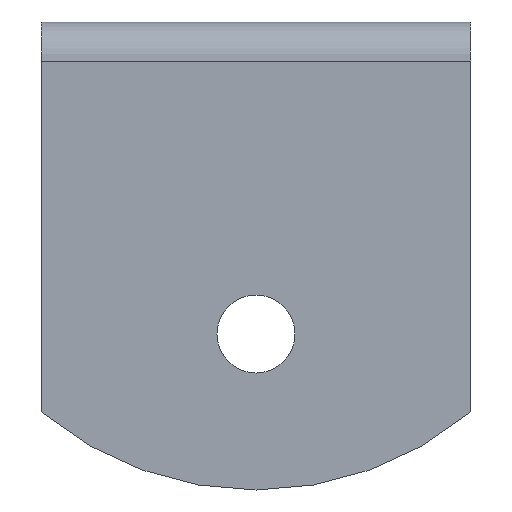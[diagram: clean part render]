
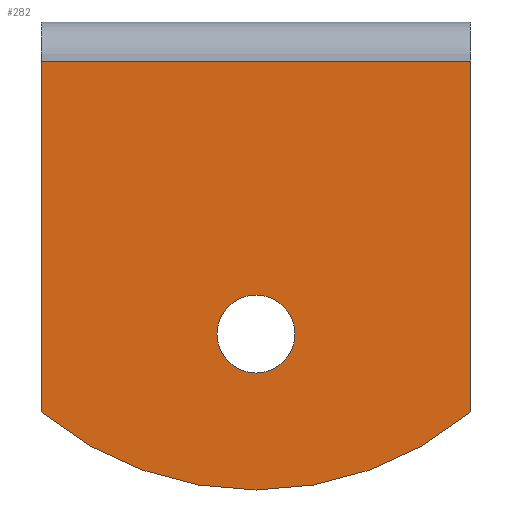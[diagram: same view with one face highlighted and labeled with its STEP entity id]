
A CAD part, left-side view. The second image highlights one B-rep face of the part: STEP entity #282.
In plain terms, the highlighted planar face has unit normal (-1, 0, 0).
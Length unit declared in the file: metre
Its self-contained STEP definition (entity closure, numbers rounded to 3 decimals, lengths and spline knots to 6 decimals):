
#13=PLANE('',#315);
#20=LINE('',#450,#40);
#26=LINE('',#467,#46);
#27=LINE('',#470,#47);
#40=VECTOR('',#357,1.);
#46=VECTOR('',#369,1.);
#47=VECTOR('',#370,1.);
#70=ORIENTED_EDGE('',*,*,#150,.T.);
#71=ORIENTED_EDGE('',*,*,#151,.T.);
#72=ORIENTED_EDGE('',*,*,#142,.F.);
#73=ORIENTED_EDGE('',*,*,#152,.T.);
#74=ORIENTED_EDGE('',*,*,#153,.F.);
#75=ORIENTED_EDGE('',*,*,#154,.T.);
#76=ORIENTED_EDGE('',*,*,#155,.T.);
#142=EDGE_CURVE('',#182,#183,#20,.T.);
#150=EDGE_CURVE('',#190,#191,#26,.T.);
#151=EDGE_CURVE('',#191,#183,#27,.T.);
#152=EDGE_CURVE('',#182,#192,#210,.F.);
#153=EDGE_CURVE('',#193,#192,#211,.T.);
#154=EDGE_CURVE('',#193,#190,#212,.F.);
#155=EDGE_CURVE('',#194,#194,#213,.T.);
#182=VERTEX_POINT('',#451);
#183=VERTEX_POINT('',#452);
#190=VERTEX_POINT('',#468);
#191=VERTEX_POINT('',#469);
#192=VERTEX_POINT('',#472);
#193=VERTEX_POINT('',#474);
#194=VERTEX_POINT('',#477);
#210=CIRCLE('',#316,0.000198);
#211=CIRCLE('',#317,0.013593);
#212=CIRCLE('',#318,0.000198);
#213=CIRCLE('',#319,0.001588);
#228=EDGE_LOOP('',(#70,#71,#72,#73,#74,#75));
#229=EDGE_LOOP('',(#76));
#250=FACE_BOUND('',#228,.T.);
#251=FACE_BOUND('',#229,.T.);
#282=ADVANCED_FACE('',(#250,#251),#13,.F.);
#315=AXIS2_PLACEMENT_3D('',#466,#367,#368);
#316=AXIS2_PLACEMENT_3D('',#471,#371,#372);
#317=AXIS2_PLACEMENT_3D('',#473,#373,#374);
#318=AXIS2_PLACEMENT_3D('',#475,#375,#376);
#319=AXIS2_PLACEMENT_3D('',#476,#377,#378);
#357=DIRECTION('',(0.,0.,1.));
#367=DIRECTION('',(1.,0.,0.));
#368=DIRECTION('',(0.,0.,-1.));
#369=DIRECTION('',(0.,0.,1.));
#370=DIRECTION('',(0.,1.,0.));
#371=DIRECTION('',(1.,0.,0.));
#372=DIRECTION('',(0.,0.,-1.));
#373=DIRECTION('',(1.,0.,0.));
#374=DIRECTION('',(0.,0.,-1.));
#375=DIRECTION('',(1.,0.,0.));
#376=DIRECTION('',(0.,0.,-1.));
#377=DIRECTION('',(1.,0.,0.));
#378=DIRECTION('',(0.,0.,-1.));
#450=CARTESIAN_POINT('',(0.,0.008731,-0.000794));
#451=CARTESIAN_POINT('',(0.,0.008731,-0.015782));
#452=CARTESIAN_POINT('',(0.,0.008731,-0.001588));
#466=CARTESIAN_POINT('',(0.,0.,-0.000794));
#467=CARTESIAN_POINT('',(0.,-0.008731,-0.000794));
#468=CARTESIAN_POINT('',(0.,-0.008731,-0.015782));
#469=CARTESIAN_POINT('',(0.,-0.008731,-0.001588));
#470=CARTESIAN_POINT('',(0.,0.008731,-0.001588));
#471=CARTESIAN_POINT('',(0.,0.008533,-0.015782));
#472=CARTESIAN_POINT('',(0.,0.008659,-0.015935));
#473=CARTESIAN_POINT('',(0.,0.,-0.005457));
#474=CARTESIAN_POINT('',(0.,-0.008659,-0.015935));
#475=CARTESIAN_POINT('',(0.,-0.008533,-0.015782));
#476=CARTESIAN_POINT('',(0.,0.,-0.0127));
#477=CARTESIAN_POINT('',(0.,0.,-0.014288));
